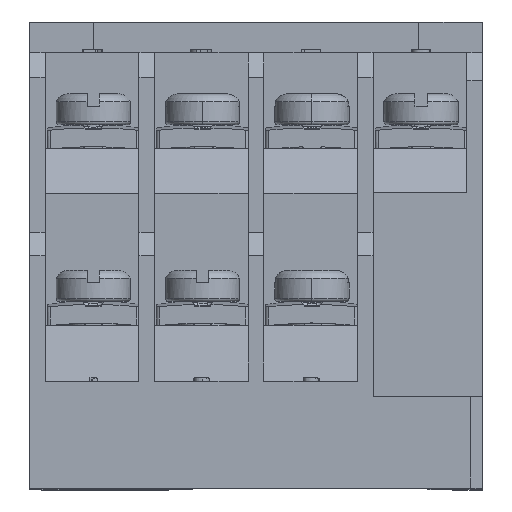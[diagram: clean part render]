
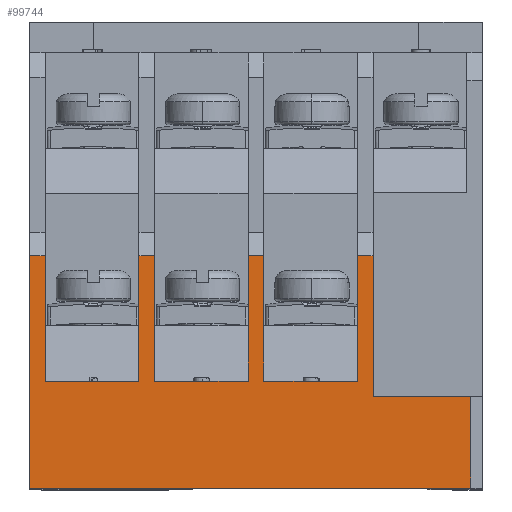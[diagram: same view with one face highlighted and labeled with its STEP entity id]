
A CAD part, top view. The second image highlights one B-rep face of the part: STEP entity #99744.
In plain terms, the highlighted planar face has unit normal (0, 0, 1).
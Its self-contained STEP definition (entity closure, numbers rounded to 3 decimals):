
#1009 = CARTESIAN_POINT ( 'NONE',  ( 19.684, -9.366, 0. ) ) ;
#1012 = CARTESIAN_POINT ( 'NONE',  ( 20.434, -0.266, 0. ) ) ;
#1076 = VECTOR ( 'NONE', #41989, 1000. ) ;
#2014 = VERTEX_POINT ( 'NONE', #30134 ) ;
#2333 = DIRECTION ( 'NONE',  ( 0., 1., 0. ) ) ;
#3206 = EDGE_CURVE ( 'NONE', #24788, #32004, #79799, .T. ) ;
#4067 = CARTESIAN_POINT ( 'NONE',  ( 12.384, -3.463, 0. ) ) ;
#5134 = VERTEX_POINT ( 'NONE', #96089 ) ;
#5278 = VERTEX_POINT ( 'NONE', #9616 ) ;
#6936 = DIRECTION ( 'NONE',  ( -1., 0., 0. ) ) ;
#7589 = CARTESIAN_POINT ( 'NONE',  ( -0.716, -0.266, 0. ) ) ;
#7681 = LINE ( 'NONE', #102447, #88872 ) ;
#8514 = CARTESIAN_POINT ( 'NONE',  ( -1.716, -8.366, 0. ) ) ;
#9060 = EDGE_CURVE ( 'NONE', #61493, #20581, #16192, .T. ) ;
#9068 = VECTOR ( 'NONE', #70436, 1000. ) ;
#9448 = ORIENTED_EDGE ( 'NONE', *, *, #3206, .F. ) ;
#9616 = CARTESIAN_POINT ( 'NONE',  ( -7.766, -0.266, 0. ) ) ;
#10365 = VERTEX_POINT ( 'NONE', #67011 ) ;
#10924 = FACE_OUTER_BOUND ( 'NONE', #98264, .T. ) ;
#13481 = ORIENTED_EDGE ( 'NONE', *, *, #62214, .T. ) ;
#13610 = VECTOR ( 'NONE', #38085, 1000. ) ;
#13648 = EDGE_CURVE ( 'NONE', #92648, #76920, #95290, .T. ) ;
#14051 = VECTOR ( 'NONE', #25097, 1000. ) ;
#15445 = ORIENTED_EDGE ( 'NONE', *, *, #69295, .T. ) ;
#15703 = ORIENTED_EDGE ( 'NONE', *, *, #72245, .F. ) ;
#15795 = CARTESIAN_POINT ( 'NONE',  ( 20.434, -0.266, 0. ) ) ;
#15875 = LINE ( 'NONE', #15795, #78069 ) ;
#16192 = LINE ( 'NONE', #23707, #56730 ) ;
#16581 = LINE ( 'NONE', #1012, #14051 ) ;
#18880 = ORIENTED_EDGE ( 'NONE', *, *, #94852, .F. ) ;
#18907 = ORIENTED_EDGE ( 'NONE', *, *, #9060, .F. ) ;
#20319 = DIRECTION ( 'NONE',  ( 0., 1., 0. ) ) ;
#20581 = VERTEX_POINT ( 'NONE', #1009 ) ;
#22150 = DIRECTION ( 'NONE',  ( 0., 1., 0. ) ) ;
#22259 = EDGE_CURVE ( 'NONE', #25130, #60466, #46755, .T. ) ;
#22596 = LINE ( 'NONE', #98676, #1076 ) ;
#22599 = CARTESIAN_POINT ( 'NONE',  ( -0.716, -8.366, 0. ) ) ;
#22870 = CARTESIAN_POINT ( 'NONE',  ( 20.434, -0.266, 0. ) ) ;
#23326 = LINE ( 'NONE', #76020, #82982 ) ;
#23707 = CARTESIAN_POINT ( 'NONE',  ( 20.434, -9.366, 0. ) ) ;
#24788 = VERTEX_POINT ( 'NONE', #8514 ) ;
#25097 = DIRECTION ( 'NONE',  ( -1., 0., 0. ) ) ;
#25130 = VERTEX_POINT ( 'NONE', #22599 ) ;
#25242 = VECTOR ( 'NONE', #40760, 1000. ) ;
#27197 = CARTESIAN_POINT ( 'NONE',  ( -1.691, -8.366, 0. ) ) ;
#30134 = CARTESIAN_POINT ( 'NONE',  ( 19.684, -15.266, 0. ) ) ;
#30181 = EDGE_CURVE ( 'NONE', #61493, #5134, #82474, .T. ) ;
#30511 = EDGE_CURVE ( 'NONE', #2014, #20581, #51898, .T. ) ;
#31381 = VERTEX_POINT ( 'NONE', #104025 ) ;
#32004 = VERTEX_POINT ( 'NONE', #43309 ) ;
#32303 = CARTESIAN_POINT ( 'NONE',  ( -8.766, -0.266, 0. ) ) ;
#34054 = ORIENTED_EDGE ( 'NONE', *, *, #57156, .T. ) ;
#34848 = DIRECTION ( 'NONE',  ( 0., 1., 0. ) ) ;
#35049 = VECTOR ( 'NONE', #20319, 1000. ) ;
#35893 = VECTOR ( 'NONE', #59354, 1000. ) ;
#36304 = CARTESIAN_POINT ( 'NONE',  ( 20.434, -15.266, 0. ) ) ;
#38085 = DIRECTION ( 'NONE',  ( 0., -1., 0. ) ) ;
#38548 = VERTEX_POINT ( 'NONE', #69141 ) ;
#39249 = EDGE_CURVE ( 'NONE', #64609, #38548, #22596, .T. ) ;
#40760 = DIRECTION ( 'NONE',  ( 0., 1., 0. ) ) ;
#40918 = LINE ( 'NONE', #27197, #35893 ) ;
#41557 = EDGE_CURVE ( 'NONE', #31381, #96313, #78197, .T. ) ;
#41989 = DIRECTION ( 'NONE',  ( 0., -1., 0. ) ) ;
#42266 = CARTESIAN_POINT ( 'NONE',  ( 5.394, -8.366, 0. ) ) ;
#42363 = CARTESIAN_POINT ( 'NONE',  ( 5.334, -0.266, 0. ) ) ;
#43215 = VECTOR ( 'NONE', #6936, 1000. ) ;
#43309 = CARTESIAN_POINT ( 'NONE',  ( -1.716, -0.266, 0. ) ) ;
#44422 = PLANE ( 'NONE',  #81571 ) ;
#45265 = VECTOR ( 'NONE', #2333, 1000. ) ;
#45779 = EDGE_CURVE ( 'NONE', #2014, #38548, #7681, .T. ) ;
#45802 = LINE ( 'NONE', #22870, #43215 ) ;
#45962 = CARTESIAN_POINT ( 'NONE',  ( 5.334, -8.366, 0. ) ) ;
#46755 = LINE ( 'NONE', #56709, #25242 ) ;
#50291 = CARTESIAN_POINT ( 'NONE',  ( 13.384, -9.366, 0. ) ) ;
#51898 = LINE ( 'NONE', #99650, #92520 ) ;
#52501 = LINE ( 'NONE', #75346, #90571 ) ;
#54720 = CARTESIAN_POINT ( 'NONE',  ( 12.384, -0.266, 0. ) ) ;
#55507 = ORIENTED_EDGE ( 'NONE', *, *, #41557, .F. ) ;
#56709 = CARTESIAN_POINT ( 'NONE',  ( -0.716, -15.266, 0. ) ) ;
#56730 = VECTOR ( 'NONE', #80431, 1000. ) ;
#57156 = EDGE_CURVE ( 'NONE', #93376, #5278, #69411, .T. ) ;
#58064 = DIRECTION ( 'NONE',  ( 0., 1., 0. ) ) ;
#58175 = VECTOR ( 'NONE', #58064, 1000. ) ;
#58552 = DIRECTION ( 'NONE',  ( 1., 0., 0. ) ) ;
#59354 = DIRECTION ( 'NONE',  ( 1., 0., 0. ) ) ;
#59977 = DIRECTION ( 'NONE',  ( 1., 0., 0. ) ) ;
#60207 = EDGE_CURVE ( 'NONE', #60466, #32004, #52501, .T. ) ;
#60225 = ORIENTED_EDGE ( 'NONE', *, *, #30181, .T. ) ;
#60466 = VERTEX_POINT ( 'NONE', #7589 ) ;
#60552 = ORIENTED_EDGE ( 'NONE', *, *, #89769, .F. ) ;
#61493 = VERTEX_POINT ( 'NONE', #50291 ) ;
#62034 = DIRECTION ( 'NONE',  ( -1., 0., 0. ) ) ;
#62214 = EDGE_CURVE ( 'NONE', #10365, #76920, #45802, .T. ) ;
#64193 = ORIENTED_EDGE ( 'NONE', *, *, #30511, .T. ) ;
#64609 = VERTEX_POINT ( 'NONE', #32303 ) ;
#65176 = CARTESIAN_POINT ( 'NONE',  ( -1.716, -3.463, 0. ) ) ;
#65204 = EDGE_CURVE ( 'NONE', #5134, #96313, #16581, .T. ) ;
#65778 = CARTESIAN_POINT ( 'NONE',  ( 6.334, -8.366, 0. ) ) ;
#67011 = CARTESIAN_POINT ( 'NONE',  ( 6.334, -0.266, 0. ) ) ;
#68287 = ORIENTED_EDGE ( 'NONE', *, *, #60207, .T. ) ;
#68585 = DIRECTION ( 'NONE',  ( 0., 0., -1. ) ) ;
#69141 = CARTESIAN_POINT ( 'NONE',  ( -8.766, -15.266, 0. ) ) ;
#69295 = EDGE_CURVE ( 'NONE', #5278, #64609, #15875, .T. ) ;
#69411 = LINE ( 'NONE', #74637, #45265 ) ;
#70436 = DIRECTION ( 'NONE',  ( 0., 1., 0. ) ) ;
#70663 = LINE ( 'NONE', #94786, #13610 ) ;
#72245 = EDGE_CURVE ( 'NONE', #93376, #24788, #40918, .T. ) ;
#73015 = VECTOR ( 'NONE', #58552, 1000. ) ;
#74637 = CARTESIAN_POINT ( 'NONE',  ( -7.766, -15.266, 0. ) ) ;
#75346 = CARTESIAN_POINT ( 'NONE',  ( 20.434, -0.266, 0. ) ) ;
#75572 = LINE ( 'NONE', #42266, #73015 ) ;
#76020 = CARTESIAN_POINT ( 'NONE',  ( 12.464, -8.366, 0. ) ) ;
#76331 = CARTESIAN_POINT ( 'NONE',  ( -7.766, -8.366, 0. ) ) ;
#76920 = VERTEX_POINT ( 'NONE', #42363 ) ;
#77409 = VECTOR ( 'NONE', #22150, 1000. ) ;
#78069 = VECTOR ( 'NONE', #96898, 1000. ) ;
#78197 = LINE ( 'NONE', #4067, #35049 ) ;
#79799 = LINE ( 'NONE', #65176, #58175 ) ;
#80431 = DIRECTION ( 'NONE',  ( 1., 0., 0. ) ) ;
#81571 = AXIS2_PLACEMENT_3D ( 'NONE', #36304, #68585, #101114 ) ;
#82474 = LINE ( 'NONE', #87053, #77409 ) ;
#82982 = VECTOR ( 'NONE', #59977, 1000. ) ;
#83511 = DIRECTION ( 'NONE',  ( -1., 0., 0. ) ) ;
#84395 = ORIENTED_EDGE ( 'NONE', *, *, #39249, .T. ) ;
#85442 = EDGE_CURVE ( 'NONE', #25130, #92648, #75572, .T. ) ;
#86415 = ORIENTED_EDGE ( 'NONE', *, *, #45779, .F. ) ;
#87053 = CARTESIAN_POINT ( 'NONE',  ( 13.384, -9.366, 0. ) ) ;
#88176 = VERTEX_POINT ( 'NONE', #65778 ) ;
#88872 = VECTOR ( 'NONE', #62034, 1000. ) ;
#89769 = EDGE_CURVE ( 'NONE', #88176, #31381, #23326, .T. ) ;
#90571 = VECTOR ( 'NONE', #83511, 1000. ) ;
#92520 = VECTOR ( 'NONE', #34848, 1000. ) ;
#92648 = VERTEX_POINT ( 'NONE', #98719 ) ;
#93376 = VERTEX_POINT ( 'NONE', #76331 ) ;
#93894 = ORIENTED_EDGE ( 'NONE', *, *, #22259, .T. ) ;
#94786 = CARTESIAN_POINT ( 'NONE',  ( 6.334, -0.266, 0. ) ) ;
#94852 = EDGE_CURVE ( 'NONE', #10365, #88176, #70663, .T. ) ;
#94998 = ORIENTED_EDGE ( 'NONE', *, *, #85442, .F. ) ;
#95290 = LINE ( 'NONE', #45962, #9068 ) ;
#96089 = CARTESIAN_POINT ( 'NONE',  ( 13.384, -0.266, 0. ) ) ;
#96313 = VERTEX_POINT ( 'NONE', #54720 ) ;
#96898 = DIRECTION ( 'NONE',  ( -1., 0., 0. ) ) ;
#98264 = EDGE_LOOP ( 'NONE', ( #60552, #18880, #13481, #98762, #94998, #93894, #68287, #9448, #15703, #34054, #15445, #84395, #86415, #64193, #18907, #60225, #102444, #55507 ) ) ;
#98676 = CARTESIAN_POINT ( 'NONE',  ( -8.766, -15.266, 0. ) ) ;
#98719 = CARTESIAN_POINT ( 'NONE',  ( 5.334, -8.366, 0. ) ) ;
#98762 = ORIENTED_EDGE ( 'NONE', *, *, #13648, .F. ) ;
#99650 = CARTESIAN_POINT ( 'NONE',  ( 19.684, -9.366, 0. ) ) ;
#99744 = ADVANCED_FACE ( 'NONE', ( #10924 ), #44422, .F. ) ;
#101114 = DIRECTION ( 'NONE',  ( 0., -1., 0. ) ) ;
#102444 = ORIENTED_EDGE ( 'NONE', *, *, #65204, .T. ) ;
#102447 = CARTESIAN_POINT ( 'NONE',  ( 20.434, -15.266, 0. ) ) ;
#104025 = CARTESIAN_POINT ( 'NONE',  ( 12.384, -8.366, 0. ) ) ;
